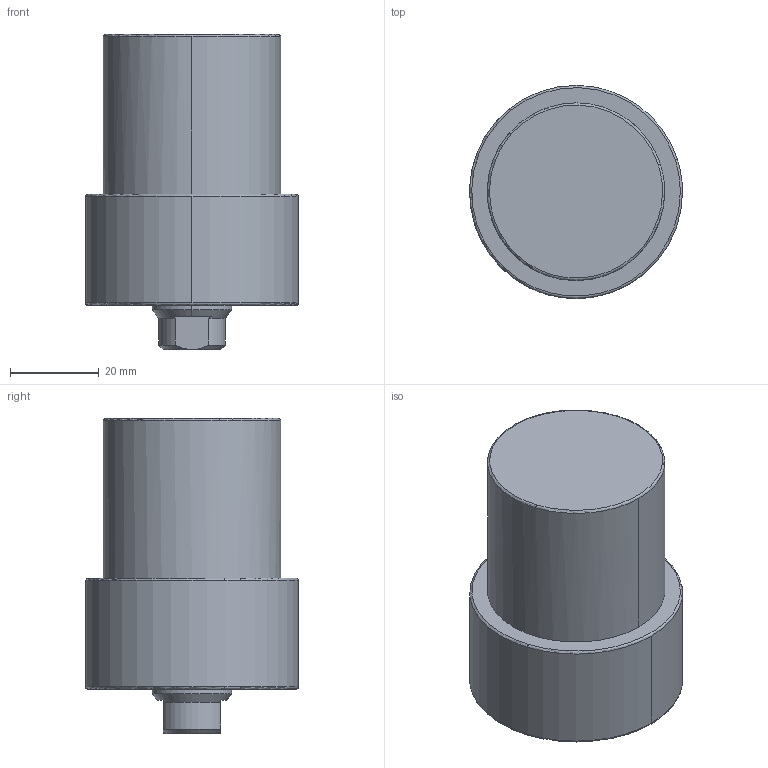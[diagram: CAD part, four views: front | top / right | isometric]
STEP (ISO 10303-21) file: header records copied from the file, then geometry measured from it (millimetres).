
FILE_DESCRIPTION((' '),'2;1');
FILE_NAME( 'TLLU-040GA-025.STEP.stp', '2025-10-24T16:37:10', (' '), ('--- Datakit www.datakit.com---'), ' Datakit CrossCadWare V2024.1 Dec 21 2023', 'Mastercam 2025', ' ');
FILE_SCHEMA(('AUTOMOTIVE_DESIGN { 1 0 10303 214 1 1 1 1 }'));
Length unit declared in the file: millimetre
Products named in the file (1): TLLU-040GA-025
Bounding box: 47.99 x 48 x 71 mm (x, y, z)
Volume: 90490.1 mm3; surface area: 13507.6 mm2
Topology: 1 solids, 1 shells, 62 faces, 180 edges, 119 vertices
Faces by surface type: cone 24, cylinder 22, plane 10, torus 6
Entity records: 2106 total; most frequent: DIRECTION 402, CARTESIAN_POINT 388, ORIENTED_EDGE 340, AXIS2_PLACEMENT_3D 177, EDGE_CURVE 170, VERTEX_POINT 119, CIRCLE 114, EDGE_LOOP 71
